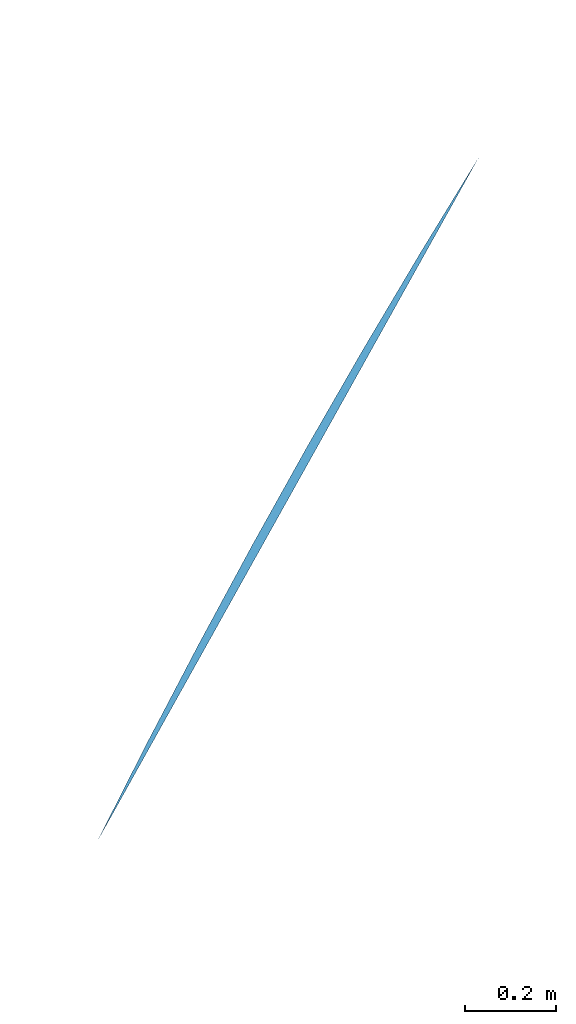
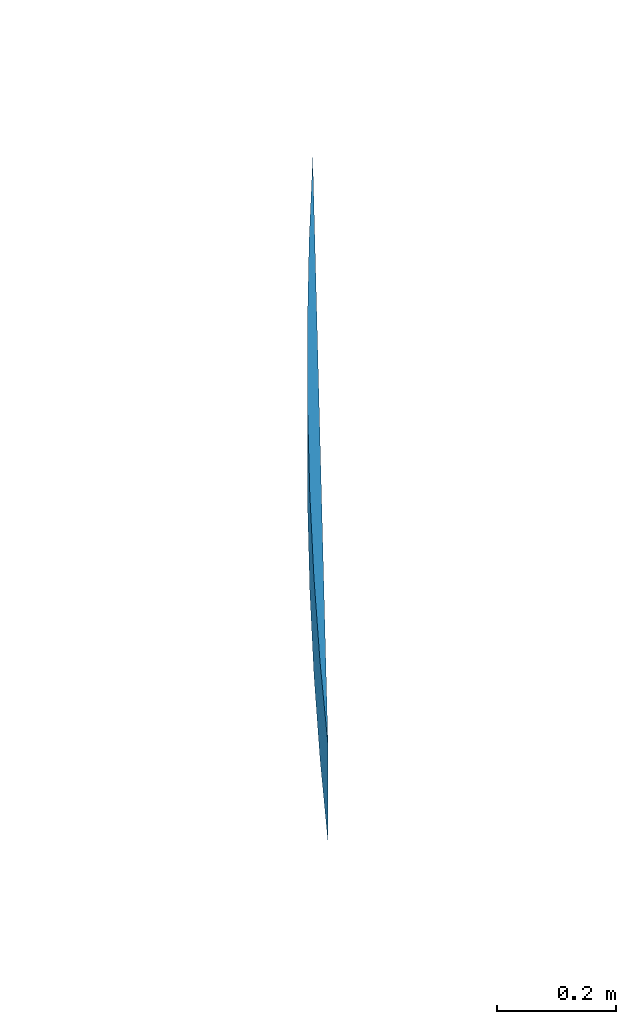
# One storey, part 11 of 91: 1 slab.
"""IFC2X3 building model written with IfcOpenShell, lengths in metres."""

import ifcopenshell
import ifcopenshell.guid

model = None  # the IFC model being written
_history = None  # IfcOwnerHistory: only IFC2X3 demands one
_inside = {}  # id of a spatial element -> (the spatial element, [elements in it])
_under = {}  # id of a project, library or spatial element -> (it, [spatial elements below it])
_declared = {}  # id of a project -> (the project, [libraries it declares])
_typed = {}  # id of a type object -> (the type object, [elements of that type])
_made_of = {}  # id of a material, layer set ... -> (it, [elements and type objects made of it])


def new_model(schema):
    """Start an empty IFC model of exactly this schema.

    Asked for "IFC4X3", IfcOpenShell would pick the latest addendum, in which some entities
    have other attributes; the version numbers below select the first issue.
    IFC2X3 requires an IfcOwnerHistory on every rooted entity: one is made here for all.
    """
    global model, _history
    if schema == "IFC4X3":
        model = ifcopenshell.file(schema_version=(4, 3, 0, 0))
    else:
        model = ifcopenshell.file(schema=schema)
    _inside.clear()
    _under.clear()
    _declared.clear()
    _typed.clear()
    _made_of.clear()
    _history = None
    if model.schema == "IFC2X3":
        org = make("IfcOrganization", Name="unknown")
        user = make(
            "IfcPersonAndOrganization",
            ThePerson=make("IfcPerson", FamilyName="unknown"),
            TheOrganization=org,
        )
        app = make(
            "IfcApplication",
            ApplicationDeveloper=org,
            Version="unknown",
            ApplicationFullName="unknown",
            ApplicationIdentifier="unknown",
        )
        _history = make(
            "IfcOwnerHistory",
            OwningUser=user,
            OwningApplication=app,
            ChangeAction="ADDED",
            CreationDate=0,
        )
    return model


def make(cls, **values):
    """One entity of the class cls with the attributes given. An attribute that is None is left unset."""
    return model.create_entity(
        cls, **{name: value for name, value in values.items() if value is not None}
    )


def entity(cls, *values):
    """Any entity or typed value of the class cls, its attributes in the order of the schema. None: left unset."""
    e = model.create_entity(cls)
    for i, value in enumerate(values):
        if value is not None:
            e[i] = value
    return e


def rooted(cls, **values):
    """An entity with a GlobalId (a new one), such as an element, a storey or a relation."""
    return make(cls, GlobalId=ifcopenshell.guid.new(), OwnerHistory=_history, **values)


def si_unit(unit_type, name, prefix=None):
    """IfcSIUnit, for example si_unit("LENGTHUNIT", "METRE", prefix="MILLI")."""
    return make("IfcSIUnit", UnitType=unit_type, Prefix=prefix, Name=name)


def converted_unit(unit_type, name, factor, base, dimensions=None, offset=None):
    """IfcConversionBasedUnit, such as the inch: factor (a typed value) times the base unit."""
    return make(
        "IfcConversionBasedUnit"
        if offset is None
        else "IfcConversionBasedUnitWithOffset",
        ConversionOffset=offset,
        Dimensions=None
        if dimensions is None
        else entity("IfcDimensionalExponents", *dimensions),
        UnitType=unit_type,
        Name=name,
        ConversionFactor=make(
            "IfcMeasureWithUnit", ValueComponent=factor, UnitComponent=base
        ),
    )


def derived_unit(unit_type, elements):
    """IfcDerivedUnit: a product of units, each with its exponent."""
    return make(
        "IfcDerivedUnit",
        Elements=[
            make("IfcDerivedUnitElement", Unit=unit, Exponent=power)
            for unit, power in elements
        ],
        UnitType=unit_type,
    )


def money_unit(currency):
    """IfcMonetaryUnit."""
    return make("IfcMonetaryUnit", Currency=currency)


def assignment(units):
    """IfcUnitAssignment: the units of a project."""
    return None if units is None else make("IfcUnitAssignment", Units=units)


def point(xyz):
    """IfcCartesianPoint."""
    return None if xyz is None else make("IfcCartesianPoint", Coordinates=xyz)


def direction(xyz):
    """IfcDirection."""
    return None if xyz is None else make("IfcDirection", DirectionRatios=xyz)


def frame(location, z_axis=None, x_axis=None):
    """IfcAxis2Placement3D, a coordinate frame: its origin and axes. An axis left out is left unset."""
    return make(
        "IfcAxis2Placement3D",
        Location=point(location),
        Axis=direction(z_axis),
        RefDirection=direction(x_axis),
    )


def frame_2d(location, x_axis=None):
    """IfcAxis2Placement2D, a coordinate frame in the plane: its origin and x axis."""
    return make(
        "IfcAxis2Placement2D", Location=point(location), RefDirection=direction(x_axis)
    )


def origin_with_axes():
    """The frame at (0, 0, 0) with the z axis (0, 0, 1) and the x axis (1, 0, 0) written out."""
    return frame((0.0, 0.0, 0.0), z_axis=(0.0, 0.0, 1.0), x_axis=(1.0, 0.0, 0.0))


def place(relative_to, where):
    """IfcLocalPlacement: puts the frame where relative to a parent placement (None: the world)."""
    return make(
        "IfcLocalPlacement", PlacementRelTo=relative_to, RelativePlacement=where
    )


def context(
    kind, dimensions, precision=None, world=None, true_north=None, identifier=None
):
    """IfcGeometricRepresentationContext, for example the 3D "Model" context."""
    return make(
        "IfcGeometricRepresentationContext",
        ContextIdentifier=identifier,
        ContextType=kind,
        CoordinateSpaceDimension=dimensions,
        Precision=precision,
        WorldCoordinateSystem=world,
        TrueNorth=true_north,
    )


def subcontext(parent, identifier, kind, view, scale=None):
    """IfcGeometricRepresentationSubContext, for example "Body" below "Model"."""
    return make(
        "IfcGeometricRepresentationSubContext",
        ContextIdentifier=identifier,
        ContextType=kind,
        ParentContext=parent,
        TargetScale=scale,
        TargetView=view,
    )


def project(units=None, contexts=None):
    """IfcProject with its units and contexts."""
    return rooted(
        "IfcProject",
        Name="project",
        RepresentationContexts=contexts,
        UnitsInContext=assignment(units),
    )


def spatial(cls, under=None, at=None, **own):
    """A site, building, storey or space (cls), placed at a placement, below another one or the project."""
    s = rooted(cls, ObjectPlacement=at, **own)
    if under is not None:
        _under.setdefault(under.id(), (under, []))[1].append(s)
    return s


def polyline(points):
    """IfcPolyline through the points."""
    return make("IfcPolyline", Points=[point(p) for p in points])


def circle_curve(where, radius):
    """IfcCircle in the frame where."""
    return make("IfcCircle", Position=where, Radius=radius)


def parameter(value):
    """IfcParameterValue: where a trimmed curve begins or ends, as a parameter of its basis curve."""
    return model.create_entity("IfcParameterValue", value)


def trimmed(basis, trim1, trim2, sense, master):
    """IfcTrimmedCurve: the piece of a basis curve between two trims."""
    return make(
        "IfcTrimmedCurve",
        BasisCurve=basis,
        Trim1=trim1,
        Trim2=trim2,
        SenseAgreement=sense,
        MasterRepresentation=master,
    )


def segment(curve, same_sense, transition):
    """IfcCompositeCurveSegment."""
    return make(
        "IfcCompositeCurveSegment",
        Transition=transition,
        SameSense=same_sense,
        ParentCurve=curve,
    )


def composite_curve(segments, self_intersect=None):
    """IfcCompositeCurve: segments joined end to end."""
    return make("IfcCompositeCurve", Segments=segments, SelfIntersect=self_intersect)


def outline(outer, holes=None, kind="AREA"):
    """IfcArbitraryClosedProfileDef: a profile drawn as a closed curve; with holes, ...WithVoids."""
    if holes is None:
        return make("IfcArbitraryClosedProfileDef", ProfileType=kind, OuterCurve=outer)
    return make(
        "IfcArbitraryProfileDefWithVoids",
        ProfileType=kind,
        OuterCurve=outer,
        InnerCurves=holes,
    )


def extrude(swept, where, along, depth):
    """IfcExtrudedAreaSolid: the profile swept, set in the frame where, extruded along a direction by depth."""
    return make(
        "IfcExtrudedAreaSolid",
        SweptArea=swept,
        Position=where,
        ExtrudedDirection=direction(along),
        Depth=depth,
    )


def shape(context_of_items, identifier, shape_type, items):
    """IfcShapeRepresentation: the items that make up one representation, for example the "Body"."""
    return make(
        "IfcShapeRepresentation",
        ContextOfItems=context_of_items,
        RepresentationIdentifier=identifier,
        RepresentationType=shape_type,
        Items=items,
    )


def material(Name=None, Category=None):
    """IfcMaterial."""
    return make("IfcMaterial", Name=Name, Category=Category)


def layer(
    of_material, thickness, ventilated=None, Name=None, Category=None, Priority=None
):
    """IfcMaterialLayer: one layer of a wall or slab, of a material (None: an air gap)."""
    return make(
        "IfcMaterialLayer",
        Material=of_material,
        LayerThickness=thickness,
        IsVentilated=ventilated,
        Name=Name,
        Category=Category,
        Priority=Priority,
    )


def layer_set(layers, Name=None):
    """IfcMaterialLayerSet."""
    return make("IfcMaterialLayerSet", MaterialLayers=layers, LayerSetName=Name)


def layer_usage(for_layer_set, set_direction, sense, offset, extent=None):
    """IfcMaterialLayerSetUsage: how a layer set lies in its element."""
    return make(
        "IfcMaterialLayerSetUsage",
        ForLayerSet=for_layer_set,
        LayerSetDirection=set_direction,
        DirectionSense=sense,
        OffsetFromReferenceLine=offset,
        ReferenceExtent=extent,
    )


def made_of(thing, what):
    """Note that an element or type object is made of a material, layer set ...; save() writes the relation."""
    if what is not None:
        _made_of.setdefault(what.id(), (what, []))[1].append(thing)
    return thing


def type_object(cls, material=None, **own):
    """A type object (cls), such as IfcWallType, which elements share."""
    return made_of(rooted(cls, **own), material)


def element(
    cls,
    number,
    at=None,
    inside=None,
    cuts=None,
    type_object=None,
    material=None,
    context=None,
    identifier="Body",
    shape_type=None,
    held_by="IfcProductDefinitionShape",
    body=None,
    shapes=None,
    **own,
):
    """One element of the class cls, such as IfcWall. Its Tag is "e" and its number.

    at: its placement. inside: the storey or other place that contains it. cuts: it is an
    opening in that element (IfcRelVoidsElement). A single representation is given by context,
    identifier, shape_type and body (its items); several are given by shapes. held_by: the class
    of the entity that holds the representations. save() writes the other relations.
    """
    e = rooted(cls, Tag="e%d" % number, ObjectPlacement=at, **own)
    if body is not None:
        shapes = [shape(context, identifier, shape_type, body)]
    if shapes is not None:
        e.Representation = make(held_by, Representations=shapes)
    if inside is not None:
        _inside.setdefault(inside.id(), (inside, []))[1].append(e)
    if cuts is not None:
        rooted(
            "IfcRelVoidsElement", RelatingBuildingElement=cuts, RelatedOpeningElement=e
        )
    if type_object is not None:
        _typed.setdefault(type_object.id(), (type_object, []))[1].append(e)
    return made_of(e, material)


def aggregate(whole, parts):
    """IfcRelAggregates: a whole, such as a stair, and the parts it consists of."""
    return rooted("IfcRelAggregates", RelatingObject=whole, RelatedObjects=parts)


def save(model, path):
    """Write the relations noted so far, then the file.

    IfcRelAggregates (storeys below a building ...), IfcRelContainedInSpatialStructure (elements
    in a storey), IfcRelDefinesByType, IfcRelAssociatesMaterial and IfcRelDeclares: one each for
    every whole, place, type object, material and project.
    """
    for whole, parts in _under.values():
        aggregate(whole, parts)
    for where, things in _inside.values():
        rooted(
            "IfcRelContainedInSpatialStructure",
            RelatedElements=things,
            RelatingStructure=where,
        )
    for kind, things in _typed.values():
        rooted("IfcRelDefinesByType", RelatedObjects=things, RelatingType=kind)
    for what, things in _made_of.values():
        rooted("IfcRelAssociatesMaterial", RelatedObjects=things, RelatingMaterial=what)
    for by, libraries in _declared.values():
        rooted("IfcRelDeclares", RelatingContext=by, RelatedDefinitions=libraries)
    model.write(path)


model = new_model("IFC2X3")

# Units and contexts
model_context = context("Model", 3, precision=1e-05, world=origin_with_axes(), true_north=direction((0.0, 1.0)))
body_context = subcontext(model_context, "Body", "Model", "MODEL_VIEW")
ifc_project = project(units=[si_unit("LENGTHUNIT", "METRE"), si_unit("AREAUNIT", "SQUARE_METRE"), si_unit("VOLUMEUNIT", "CUBIC_METRE"), converted_unit("PLANEANGLEUNIT", "DEGREE", entity("IfcPlaneAngleMeasure", 0.0174532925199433), si_unit("PLANEANGLEUNIT", "RADIAN"), dimensions=[0, 0, 0, 0, 0, 0, 0]), money_unit("EUR"), converted_unit("TIMEUNIT", "Year", entity("IfcTimeMeasure", 31557600.0), si_unit("TIMEUNIT", "SECOND"), dimensions=[0, 0, 1, 0, 0, 0, 0]), si_unit("MASSUNIT", "GRAM", prefix="KILO"), si_unit("THERMODYNAMICTEMPERATUREUNIT", "DEGREE_CELSIUS"), si_unit("LUMINOUSINTENSITYUNIT", "LUMEN"), si_unit("ENERGYUNIT", "JOULE", prefix="MEGA"), derived_unit("THERMALCONDUCTANCEUNIT", [(si_unit("POWERUNIT", "WATT"), 1), (si_unit("LENGTHUNIT", "METRE"), -1), (si_unit("THERMODYNAMICTEMPERATUREUNIT", "KELVIN"), -1)]), derived_unit("SPECIFICHEATCAPACITYUNIT", [(si_unit("ENERGYUNIT", "JOULE"), 1), (si_unit("MASSUNIT", "GRAM", prefix="KILO"), -1), (si_unit("THERMODYNAMICTEMPERATUREUNIT", "KELVIN"), -1)]), derived_unit("MASSDENSITYUNIT", [(si_unit("MASSUNIT", "GRAM", prefix="KILO"), 1), (si_unit("VOLUMEUNIT", "CUBIC_METRE"), -1)])], contexts=[model_context])

# Site, building, storey
site_placement = place(None, origin_with_axes())
site = spatial("IfcSite", under=ifc_project, at=site_placement, Name="Site", CompositionType="ELEMENT")
building_placement = place(site_placement, origin_with_axes())
building = spatial("IfcBuilding", under=site, at=building_placement, Name="Bâtiment", CompositionType="ELEMENT")
storey_placement = place(building_placement, origin_with_axes())
storey = spatial("IfcBuildingStorey", under=building, at=storey_placement, Name="RDC", CompositionType="ELEMENT", Elevation=0.0)

# Slab
ifc_material = material(Name="Asphalte")
ifc_layer = layer(ifc_material, 0.2, ventilated="UNKNOWN")
ifc_layer_set = layer_set([ifc_layer], Name="Asphalte 0.2")
ifc_layer_usage = layer_usage(ifc_layer_set, "AXIS3", "NEGATIVE", 0.2)
slab_type = type_object("IfcSlabType", Name="Asphalte 200", PredefinedType="FLOOR")
slab_placement = place(storey_placement, frame((112.2557939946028, -2.709493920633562, -3.0), z_axis=(0.0, 0.0, 1.0), x_axis=(1.0, 0.0, 0.0)))
element("IfcSlab", 1, at=slab_placement, inside=storey, type_object=slab_type, material=ifc_layer_usage, Name="DC_BA_Isol-005", PredefinedType="FLOOR", context=body_context, shape_type="SweptSolid", body=[
    extrude(outline(composite_curve([segment(polyline([(0.0, 0.0), (0.8389407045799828, 1.50441373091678)]), True, "CONTINUOUS"), segment(trimmed(circle_curve(frame_2d((16.56368753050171, -8.25066292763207), x_axis=(-0.8497638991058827, 0.5271634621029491)), 18.50484215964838), [point((0.8389407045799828, 1.50441373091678)), parameter(0.0)], [point((0.0, 0.0)), parameter(5.335301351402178)], True, "CARTESIAN"), True, "CONTINUOUS")], self_intersect=False)), frame((0.0, 0.0, -0.2), z_axis=(0.0, 0.0, 1.0), x_axis=(1.0, 0.0, 0.0)), (0.0, 0.0, 1.0), 0.2),
])

save(model, "model.ifc")
